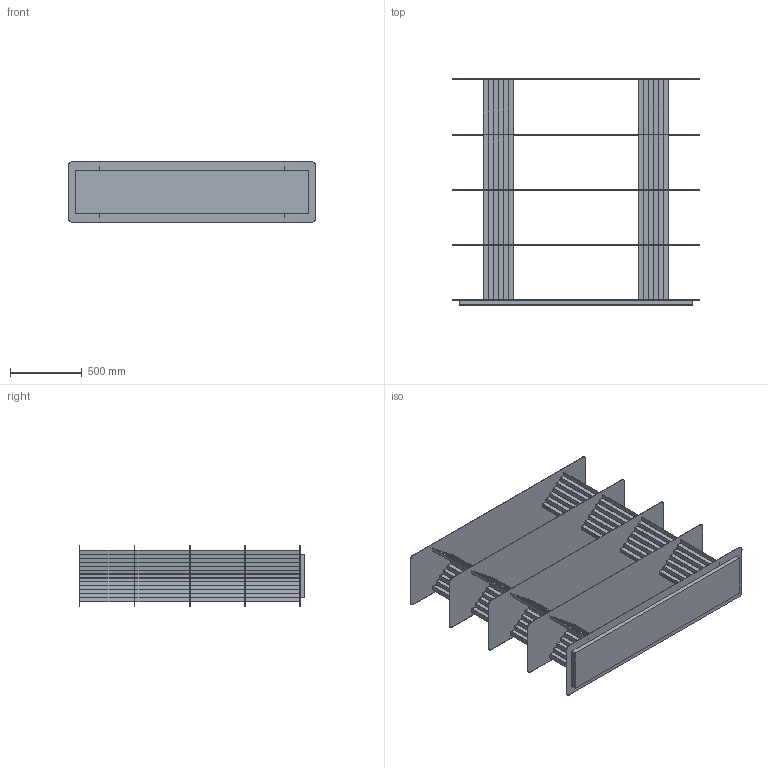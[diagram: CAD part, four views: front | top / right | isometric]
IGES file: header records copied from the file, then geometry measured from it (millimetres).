
Start section: SolidWorks IGES file using analytic representation for surfaces
Global section: file name: Z:\30-Ingenieria I+D\Proyectos\03-Plec_Shelves APO\1-sw\WEB\Arxius\PLEC SHELVES S 4 NIVELES.IGS; native system: SolidWorks 2020; preprocessor: SolidWorks 2020; author: Bernat Llonch; date: 250508.121252; units: millimetre
Bounding box: 1723 x 1571 x 420 mm (x, y, z)
Surface area: 12823419.8 mm2 (no closed solid volume)
Topology: 0 solids, 0 shells, 488 faces, 3040 edges, 3040 vertices
Faces by surface type: bspline 468, revolution 20
